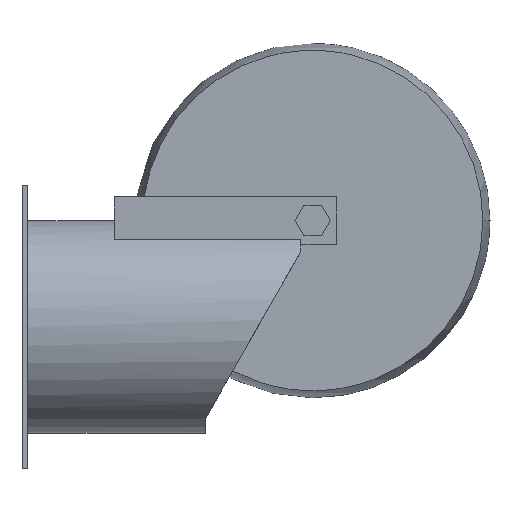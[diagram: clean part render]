
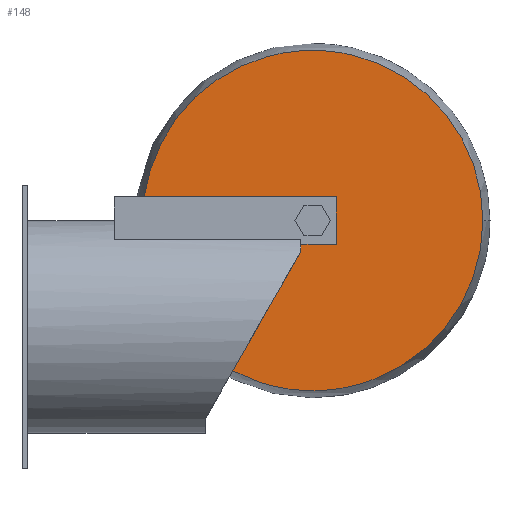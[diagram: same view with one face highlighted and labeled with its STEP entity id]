
A CAD part, left-side view. The second image highlights one B-rep face of the part: STEP entity #148.
In plain terms, the highlighted planar face has unit normal (-1, 0, 0).
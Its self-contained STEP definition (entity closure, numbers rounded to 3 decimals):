
#1 = LINE ( 'NONE', #1258, #393 ) ;
#19 = CARTESIAN_POINT ( 'NONE',  ( -21., -123., 45. ) ) ;
#42 = VERTEX_POINT ( 'NONE', #200 ) ;
#67 = ORIENTED_EDGE ( 'NONE', *, *, #613, .T. ) ;
#80 = CARTESIAN_POINT ( 'NONE',  ( -21., -89.163, -18.554 ) ) ;
#101 = VECTOR ( 'NONE', #882, 1000. ) ;
#110 = EDGE_CURVE ( 'NONE', #817, #42, #177, .T. ) ;
#113 = AXIS2_PLACEMENT_3D ( 'NONE', #237, #956, #836 ) ;
#117 = FACE_OUTER_BOUND ( 'NONE', #1245, .T. ) ;
#123 = DIRECTION ( 'NONE',  ( 0., 0.495, -0.869 ) ) ;
#148 = ADVANCED_FACE ( 'NONE', ( #117 ), #1173, .F. ) ;
#154 = AXIS2_PLACEMENT_3D ( 'NONE', #1065, #1070, #212 ) ;
#159 = CARTESIAN_POINT ( 'NONE',  ( -21., -118., 35. ) ) ;
#177 = CIRCLE ( 'NONE', #813, 72. ) ;
#182 = VECTOR ( 'NONE', #553, 1000. ) ;
#185 = EDGE_CURVE ( 'NONE', #996, #742, #1, .T. ) ;
#200 = CARTESIAN_POINT ( 'NONE',  ( -21., -195., 45.001 ) ) ;
#212 = DIRECTION ( 'NONE',  ( 0., 0., 1. ) ) ;
#237 = CARTESIAN_POINT ( 'NONE',  ( -21., -123., 45. ) ) ;
#262 = CARTESIAN_POINT ( 'NONE',  ( -21., -118., 45. ) ) ;
#274 = CARTESIAN_POINT ( 'NONE',  ( -21., -51.698, 55. ) ) ;
#319 = DIRECTION ( 'NONE',  ( 0., 0., 1. ) ) ;
#323 = ORIENTED_EDGE ( 'NONE', *, *, #185, .F. ) ;
#331 = VERTEX_POINT ( 'NONE', #274 ) ;
#360 = CARTESIAN_POINT ( 'NONE',  ( -21., -123., 35. ) ) ;
#393 = VECTOR ( 'NONE', #1249, 1000. ) ;
#419 = DIRECTION ( 'NONE',  ( 0., 1., 0. ) ) ;
#429 = LINE ( 'NONE', #955, #1103 ) ;
#509 = EDGE_CURVE ( 'NONE', #742, #331, #429, .T. ) ;
#553 = DIRECTION ( 'NONE',  ( 0., -1., 0. ) ) ;
#602 = CARTESIAN_POINT ( 'NONE',  ( -21., -118., 32. ) ) ;
#613 = EDGE_CURVE ( 'NONE', #1190, #817, #1257, .T. ) ;
#635 = ORIENTED_EDGE ( 'NONE', *, *, #1059, .F. ) ;
#660 = ORIENTED_EDGE ( 'NONE', *, *, #509, .F. ) ;
#675 = CARTESIAN_POINT ( 'NONE',  ( -21., -133., 35. ) ) ;
#742 = VERTEX_POINT ( 'NONE', #1231 ) ;
#744 = CIRCLE ( 'NONE', #154, 72. ) ;
#748 = ORIENTED_EDGE ( 'NONE', *, *, #990, .F. ) ;
#813 = AXIS2_PLACEMENT_3D ( 'NONE', #19, #1265, #319 ) ;
#817 = VERTEX_POINT ( 'NONE', #80 ) ;
#836 = DIRECTION ( 'NONE',  ( 0., 0., -1. ) ) ;
#882 = DIRECTION ( 'NONE',  ( 0., 0., 1. ) ) ;
#955 = CARTESIAN_POINT ( 'NONE',  ( -21., -123., 55. ) ) ;
#956 = DIRECTION ( 'NONE',  ( 1., 0., 0. ) ) ;
#990 = EDGE_CURVE ( 'NONE', #1190, #1075, #1073, .T. ) ;
#996 = VERTEX_POINT ( 'NONE', #675 ) ;
#1056 = CARTESIAN_POINT ( 'NONE',  ( -21., -77.5, -39. ) ) ;
#1059 = EDGE_CURVE ( 'NONE', #1075, #996, #1191, .T. ) ;
#1065 = CARTESIAN_POINT ( 'NONE',  ( -21., -123., 45. ) ) ;
#1070 = DIRECTION ( 'NONE',  ( -1., 0., 0. ) ) ;
#1073 = LINE ( 'NONE', #262, #101 ) ;
#1075 = VERTEX_POINT ( 'NONE', #159 ) ;
#1103 = VECTOR ( 'NONE', #419, 1000. ) ;
#1157 = ORIENTED_EDGE ( 'NONE', *, *, #110, .T. ) ;
#1173 = PLANE ( 'NONE',  #113 ) ;
#1183 = VECTOR ( 'NONE', #123, 1000. ) ;
#1186 = ORIENTED_EDGE ( 'NONE', *, *, #1307, .T. ) ;
#1190 = VERTEX_POINT ( 'NONE', #602 ) ;
#1191 = LINE ( 'NONE', #360, #182 ) ;
#1231 = CARTESIAN_POINT ( 'NONE',  ( -21., -133., 55. ) ) ;
#1245 = EDGE_LOOP ( 'NONE', ( #67, #1157, #1186, #660, #323, #635, #748 ) ) ;
#1249 = DIRECTION ( 'NONE',  ( 0., 0., 1. ) ) ;
#1257 = LINE ( 'NONE', #1056, #1183 ) ;
#1258 = CARTESIAN_POINT ( 'NONE',  ( -21., -133., 45. ) ) ;
#1265 = DIRECTION ( 'NONE',  ( -1., 0., 0. ) ) ;
#1307 = EDGE_CURVE ( 'NONE', #42, #331, #744, .T. ) ;
